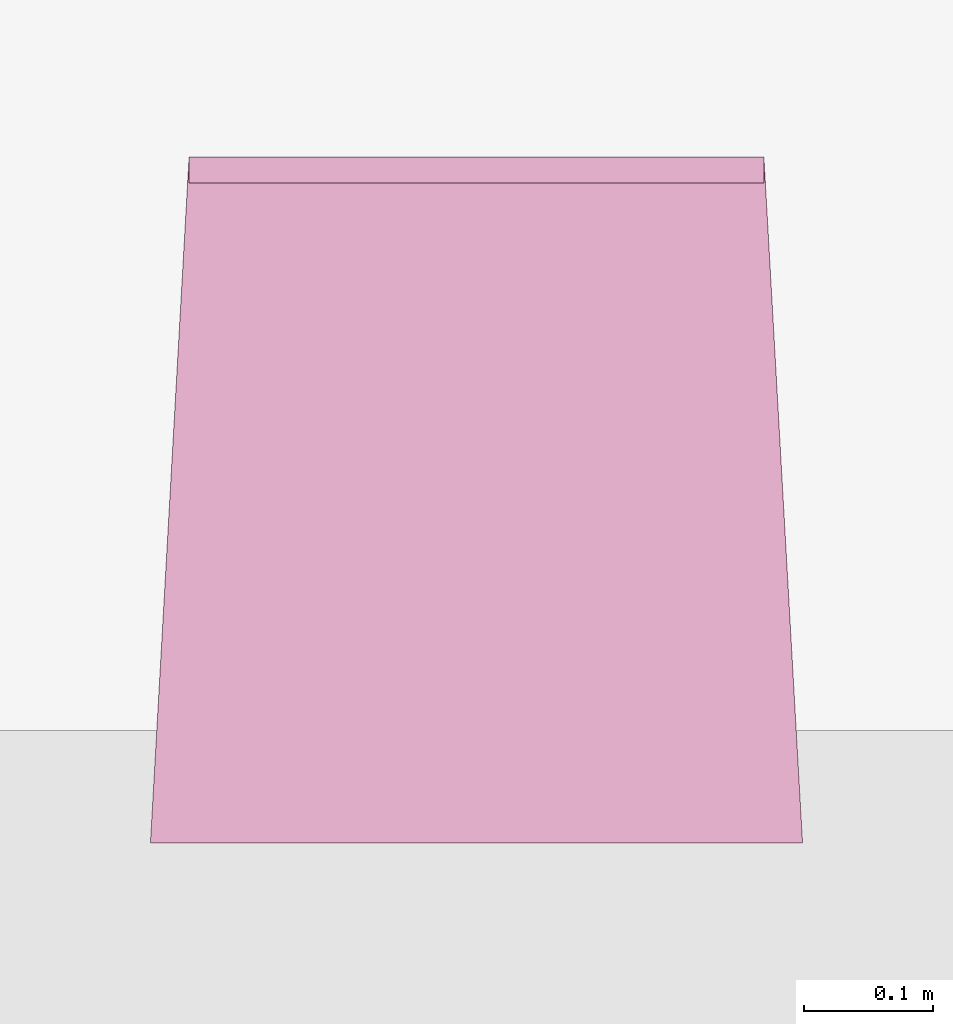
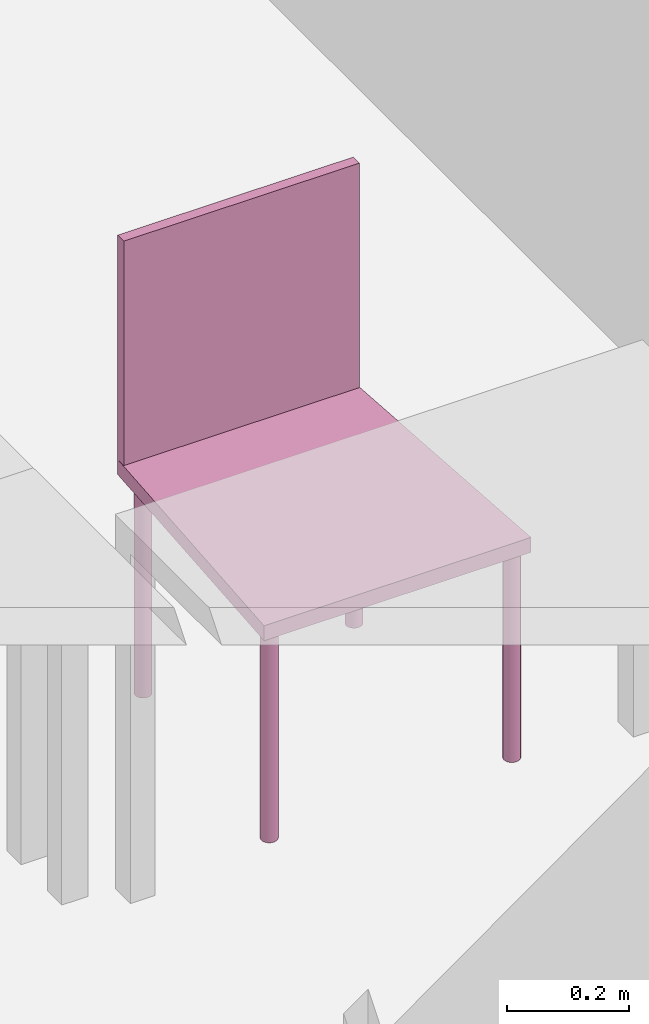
"""IFC4 building model written with IfcOpenShell, lengths in metres."""

from ifc_helpers import new_model, entity, si_unit, converted_unit, derived_unit, frame, origin, place, context, subcontext, project, spatial, faceted_brep, element, save


model = new_model("IFC4")

# Units and contexts
model_context = context("Model", 3, precision=1e-05, world=origin())
body_context = subcontext(model_context, "Body", "Model", "MODEL_VIEW")
ifc_project = project(units=[si_unit("LENGTHUNIT", "METRE"), si_unit("AREAUNIT", "SQUARE_METRE"), si_unit("VOLUMEUNIT", "CUBIC_METRE"), si_unit("MASSUNIT", "GRAM", prefix="KILO"), converted_unit("PLANEANGLEUNIT", "DEGREE", entity("IfcPlaneAngleMeasure", 0.0174532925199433), si_unit("PLANEANGLEUNIT", "RADIAN"), dimensions=[0, 0, 0, 0, 0, 0, 0]), derived_unit("THERMALTRANSMITTANCEUNIT", [(si_unit("POWERUNIT", "WATT"), 1), (si_unit("THERMODYNAMICTEMPERATUREUNIT", "KELVIN"), -1), (si_unit("LENGTHUNIT", "METRE"), -2)]), derived_unit("VOLUMETRICFLOWRATEUNIT", [(si_unit("LENGTHUNIT", "METRE"), 3), (converted_unit("TIMEUNIT", "hour", entity("IfcTimeMeasure", 3600.0), si_unit("TIMEUNIT", "SECOND"), dimensions=[0, 0, 1, 0, 0, 0, 0]), -1), (si_unit("LENGTHUNIT", "METRE"), -1)])], contexts=[model_context])

# Building, storeys
building_placement = place(None, origin())
building = spatial("IfcBuilding", under=ifc_project, at=building_placement, Name="HABITATGE PLURIFAMILIAR", CompositionType="ELEMENT")
storey_1_placement = place(building_placement, frame((0.0, 0.0, 3.35)))
storey_1 = spatial("IfcBuildingStorey", under=building, at=storey_1_placement, Name="PLANTA  ALTELL", CompositionType="ELEMENT", Elevation=3.35)
storey_2_placement = place(storey_1_placement, origin())
storey_2 = spatial("IfcBuildingStorey", under=storey_1, at=storey_2_placement, Name="NOU", CompositionType="PARTIAL")

# Furniture
furniture_placement = place(storey_2_placement, frame((415.152760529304, 13.9533806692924, 0.0499839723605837)))
element("IfcFurniture", 1, at=furniture_placement, inside=storey_2, Name="Cadira confident_PA", context=body_context, shape_type="Brep", body=[
    faceted_brep([(0.0391636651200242, 0.025032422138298, 0.0), (0.0389479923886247, 0.0276273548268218, 0.0), (0.0382849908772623, 0.0301454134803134, 0.0), (0.0371948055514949, 0.0325100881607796, 0.0), (0.0357105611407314, 0.0346495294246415, 0.0), (0.0338773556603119, 0.0364987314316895, 0.0), (0.0317508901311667, 0.0380015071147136, 0.0), (0.0293957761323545, 0.0391121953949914, 0.0), (0.0268835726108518, 0.0397970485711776, 0.0), (0.0242906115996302, 0.040035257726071, 0.0), (0.0216956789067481, 0.0398195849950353, 0.0), (0.0191776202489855, 0.0391565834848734, 0.0), (0.0168129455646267, 0.0380663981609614, 0.0), (0.0146735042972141, 0.0365821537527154, 0.0), (0.0128243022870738, 0.0347489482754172, 0.0), (0.0113215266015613, 0.0326224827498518, 0.0), (0.0102108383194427, 0.0302673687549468, 0.0), (0.00952598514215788, 0.0277551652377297, 0.0), (0.00928777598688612, 0.0251622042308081, 0.0), (0.00950344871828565, 0.022567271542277, 0.0), (0.010166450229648, 0.0200492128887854, 0.0), (0.0112566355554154, 0.0176845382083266, 0.0), (0.0127408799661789, 0.0155450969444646, 0.0), (0.0145740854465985, 0.0136958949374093, 0.0), (0.0167005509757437, 0.0121931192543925, 0.0), (0.0190556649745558, 0.0110824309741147, 0.0), (0.0215678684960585, 0.0103975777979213, 0.0), (0.0241608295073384, 0.0101593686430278, 0.0), (0.0267557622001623, 0.0103750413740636, 0.0), (0.0292738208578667, 0.0110380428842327, 0.0), (0.0316384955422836, 0.0121282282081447, 0.0), (0.0337779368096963, 0.0136124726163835, 0.0), (0.0356271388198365, 0.0154456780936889, 0.0), (0.037129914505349, 0.0175721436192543, 0.0), (0.0382406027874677, 0.019927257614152, 0.0), (0.0389254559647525, 0.0224394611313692, 0.0), (0.0391636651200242, 0.025032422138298, 0.448281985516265), (0.0389254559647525, 0.0224394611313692, 0.448281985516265), (0.0382406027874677, 0.019927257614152, 0.448281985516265), (0.037129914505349, 0.0175721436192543, 0.448281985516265), (0.0356271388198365, 0.0154456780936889, 0.448281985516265), (0.0337779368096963, 0.0136124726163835, 0.448281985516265), (0.0316384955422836, 0.0121282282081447, 0.448281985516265), (0.0292738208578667, 0.0110380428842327, 0.448281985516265), (0.0267557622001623, 0.0103750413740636, 0.448281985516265), (0.0241608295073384, 0.0101593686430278, 0.448281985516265), (0.0215678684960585, 0.0103975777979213, 0.448281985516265), (0.0190556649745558, 0.0110824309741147, 0.448281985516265), (0.0167005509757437, 0.0121931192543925, 0.448281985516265), (0.0145740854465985, 0.0136958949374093, 0.448281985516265), (0.0127408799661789, 0.0155450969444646, 0.448281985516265), (0.0112566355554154, 0.0176845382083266, 0.448281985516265), (0.010166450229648, 0.0200492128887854, 0.448281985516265), (0.00950344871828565, 0.022567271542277, 0.448281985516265), (0.00928777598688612, 0.0251622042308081, 0.448281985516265), (0.00952598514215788, 0.0277551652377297, 0.448281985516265), (0.0102108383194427, 0.0302673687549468, 0.448281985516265), (0.0113215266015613, 0.0326224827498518, 0.448281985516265), (0.0128243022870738, 0.0347489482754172, 0.448281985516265), (0.0146735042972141, 0.0365821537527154, 0.448281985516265), (0.0168129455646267, 0.0380663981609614, 0.448281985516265), (0.0191776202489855, 0.0391565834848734, 0.448281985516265), (0.0216956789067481, 0.0398195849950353, 0.448281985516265), (0.0242906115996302, 0.040035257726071, 0.448281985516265), (0.0268835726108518, 0.0397970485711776, 0.448281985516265), (0.0293957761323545, 0.0391121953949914, 0.448281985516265), (0.0317508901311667, 0.0380015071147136, 0.448281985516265), (0.0338773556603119, 0.0364987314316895, 0.448281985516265), (0.0357105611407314, 0.0346495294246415, 0.448281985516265), (0.0371948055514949, 0.0325100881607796, 0.448281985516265), (0.0382849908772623, 0.0301454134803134, 0.448281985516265), (0.0389479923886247, 0.0276273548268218, 0.448281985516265)], [[[0, 1, 2, 3, 4, 5, 6, 7, 8, 9, 10, 11, 12, 13, 14, 15, 16, 17, 18, 19, 20, 21, 22, 23, 24, 25, 26, 27, 28, 29, 30, 31, 32, 33, 34, 35]], [[36, 37, 38, 39, 40, 41, 42, 43, 44, 45, 46, 47, 48, 49, 50, 51, 52, 53, 54, 55, 56, 57, 58, 59, 60, 61, 62, 63, 64, 65, 66, 67, 68, 69, 70, 71]], [[1, 0, 36, 71]], [[2, 1, 71, 70]], [[3, 2, 70, 69]], [[4, 3, 69, 68]], [[5, 4, 68, 67]], [[6, 5, 67, 66]], [[7, 6, 66, 65]], [[8, 7, 65, 64]], [[9, 8, 64, 63]], [[10, 9, 63, 62]], [[11, 10, 62, 61]], [[12, 11, 61, 60]], [[13, 12, 60, 59]], [[14, 13, 59, 58]], [[15, 14, 58, 57]], [[16, 15, 57, 56]], [[17, 16, 56, 55]], [[18, 17, 55, 54]], [[19, 18, 54, 53]], [[20, 19, 53, 52]], [[21, 20, 52, 51]], [[22, 21, 51, 50]], [[23, 22, 50, 49]], [[24, 23, 49, 48]], [[25, 24, 48, 47]], [[26, 25, 47, 46]], [[27, 26, 46, 45]], [[28, 27, 45, 44]], [[29, 28, 44, 43]], [[30, 29, 43, 42]], [[31, 30, 42, 41]], [[32, 31, 41, 40]], [[33, 32, 40, 39]], [[34, 33, 39, 38]], [[35, 34, 38, 37]], [[0, 35, 37, 36]]], orient=[[False], [False], [False], [False], [False], [False], [False], [False], [False], [False], [False], [False], [False], [False], [False], [False], [False], [False], [False], [False], [False], [False], [False], [False], [False], [False], [False], [False], [False], [False], [False], [False], [False], [False], [False], [False], [False], [False]]),
    faceted_brep([(0.0668016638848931, 0.487439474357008, 0.0), (0.0665859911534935, 0.490034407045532, 0.0), (0.0659229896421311, 0.492552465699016, 0.0), (0.0648328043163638, 0.49491714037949, 0.0), (0.0633485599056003, 0.497056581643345, 0.0), (0.0615153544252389, 0.4989057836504, 0.0), (0.0593888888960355, 0.500408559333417, 0.0), (0.0570337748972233, 0.501519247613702, 0.0), (0.0545215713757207, 0.502204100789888, 0.0), (0.051928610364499, 0.502442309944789, 0.0), (0.0493336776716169, 0.502226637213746, 0.0), (0.0468156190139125, 0.501563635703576, 0.0), (0.0444509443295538, 0.500473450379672, 0.0), (0.0423115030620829, 0.498989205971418, 0.0), (0.0404623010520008, 0.497156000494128, 0.0), (0.0389595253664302, 0.495029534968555, 0.0), (0.0378488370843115, 0.492674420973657, 0.0), (0.0371639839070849, 0.490162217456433, 0.0), (0.0369257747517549, 0.487569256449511, 0.0), (0.0371414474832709, 0.48497432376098, 0.0), (0.0378044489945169, 0.482456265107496, 0.0), (0.0388946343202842, 0.48009159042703, 0.0), (0.0403788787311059, 0.477952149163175, 0.0), (0.0422120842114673, 0.476102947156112, 0.0), (0.0443385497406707, 0.474600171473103, 0.0), (0.0466936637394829, 0.473489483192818, 0.0), (0.0492058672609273, 0.472804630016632, 0.0), (0.0517988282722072, 0.472566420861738, 0.0), (0.0543937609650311, 0.472782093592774, 0.0), (0.0569118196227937, 0.473445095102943, 0.0), (0.0592764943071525, 0.474535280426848, 0.0), (0.0614159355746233, 0.476019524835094, 0.0), (0.0632651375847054, 0.477852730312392, 0.0), (0.0647679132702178, 0.479979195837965, 0.0), (0.0658786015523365, 0.482334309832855, 0.0), (0.0665634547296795, 0.484846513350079, 0.0), (0.0668016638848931, 0.487439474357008, 0.448281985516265), (0.0665634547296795, 0.484846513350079, 0.448281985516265), (0.0658786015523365, 0.482334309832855, 0.448281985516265), (0.0647679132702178, 0.479979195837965, 0.448281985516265), (0.0632651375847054, 0.477852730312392, 0.448281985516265), (0.0614159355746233, 0.476019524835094, 0.448281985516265), (0.0592764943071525, 0.474535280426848, 0.448281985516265), (0.0569118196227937, 0.473445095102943, 0.448281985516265), (0.0543937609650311, 0.472782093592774, 0.448281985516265), (0.0517988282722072, 0.472566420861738, 0.448281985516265), (0.0492058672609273, 0.472804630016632, 0.448281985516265), (0.0466936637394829, 0.473489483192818, 0.448281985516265), (0.0443385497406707, 0.474600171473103, 0.448281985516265), (0.0422120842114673, 0.476102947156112, 0.448281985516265), (0.0403788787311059, 0.477952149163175, 0.448281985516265), (0.0388946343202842, 0.48009159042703, 0.448281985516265), (0.0378044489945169, 0.482456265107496, 0.448281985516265), (0.0371414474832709, 0.48497432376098, 0.448281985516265), (0.0369257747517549, 0.487569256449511, 0.448281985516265), (0.0371639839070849, 0.490162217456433, 0.448281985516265), (0.0378488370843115, 0.492674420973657, 0.448281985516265), (0.0389595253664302, 0.495029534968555, 0.448281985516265), (0.0404623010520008, 0.497156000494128, 0.448281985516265), (0.0423115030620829, 0.498989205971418, 0.448281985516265), (0.0444509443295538, 0.500473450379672, 0.448281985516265), (0.0468156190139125, 0.501563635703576, 0.448281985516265), (0.0493336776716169, 0.502226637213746, 0.448281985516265), (0.051928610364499, 0.502442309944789, 0.448281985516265), (0.0545215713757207, 0.502204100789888, 0.448281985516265), (0.0570337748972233, 0.501519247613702, 0.448281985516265), (0.0593888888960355, 0.500408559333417, 0.448281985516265), (0.0615153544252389, 0.4989057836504, 0.448281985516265), (0.0633485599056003, 0.497056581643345, 0.448281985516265), (0.0648328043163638, 0.49491714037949, 0.448281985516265), (0.0659229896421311, 0.492552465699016, 0.448281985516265), (0.0665859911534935, 0.490034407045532, 0.448281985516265)], [[[0, 1, 2, 3, 4, 5, 6, 7, 8, 9, 10, 11, 12, 13, 14, 15, 16, 17, 18, 19, 20, 21, 22, 23, 24, 25, 26, 27, 28, 29, 30, 31, 32, 33, 34, 35]], [[36, 37, 38, 39, 40, 41, 42, 43, 44, 45, 46, 47, 48, 49, 50, 51, 52, 53, 54, 55, 56, 57, 58, 59, 60, 61, 62, 63, 64, 65, 66, 67, 68, 69, 70, 71]], [[1, 0, 36, 71]], [[2, 1, 71, 70]], [[3, 2, 70, 69]], [[4, 3, 69, 68]], [[5, 4, 68, 67]], [[6, 5, 67, 66]], [[7, 6, 66, 65]], [[8, 7, 65, 64]], [[9, 8, 64, 63]], [[10, 9, 63, 62]], [[11, 10, 62, 61]], [[12, 11, 61, 60]], [[13, 12, 60, 59]], [[14, 13, 59, 58]], [[15, 14, 58, 57]], [[16, 15, 57, 56]], [[17, 16, 56, 55]], [[18, 17, 55, 54]], [[19, 18, 54, 53]], [[20, 19, 53, 52]], [[21, 20, 52, 51]], [[22, 21, 51, 50]], [[23, 22, 50, 49]], [[24, 23, 49, 48]], [[25, 24, 48, 47]], [[26, 25, 47, 46]], [[27, 26, 46, 45]], [[28, 27, 45, 44]], [[29, 28, 44, 43]], [[30, 29, 43, 42]], [[31, 30, 42, 41]], [[32, 31, 41, 40]], [[33, 32, 40, 39]], [[34, 33, 39, 38]], [[35, 34, 38, 37]], [[0, 35, 37, 36]]], orient=[[False], [False], [False], [False], [False], [False], [False], [False], [False], [False], [False], [False], [False], [False], [False], [False], [False], [False], [False], [False], [False], [False], [False], [False], [False], [False], [False], [False], [False], [False], [False], [False], [False], [False], [False], [False], [False], [False]]),
    faceted_brep([(0.499163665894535, 0.025032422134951, 0.0), (0.498947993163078, 0.0276273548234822, 0.0), (0.498284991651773, 0.0301454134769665, 0.0), (0.497194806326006, 0.0325100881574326, 0.0), (0.495710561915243, 0.0346495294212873, 0.0), (0.493877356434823, 0.0364987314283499, 0.0), (0.491750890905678, 0.0380015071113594, 0.0), (0.489395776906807, 0.0391121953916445, 0.0), (0.486883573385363, 0.0397970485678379, 0.0), (0.484290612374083, 0.0400352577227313, 0.0), (0.481695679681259, 0.0398195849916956, 0.0), (0.479177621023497, 0.0391565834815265, 0.0), (0.476812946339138, 0.0380663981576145, 0.0), (0.474673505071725, 0.0365821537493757, 0.0), (0.472824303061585, 0.0347489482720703, 0.0), (0.471321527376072, 0.0326224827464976, 0.0), (0.470210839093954, 0.0302673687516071, 0.0), (0.469525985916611, 0.0277551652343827, 0.0), (0.469287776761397, 0.0251622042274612, 0.0), (0.469503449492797, 0.0225672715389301, 0.0), (0.470166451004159, 0.0200492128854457, 0.0), (0.471256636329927, 0.0176845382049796, 0.0), (0.47274088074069, 0.0155450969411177, 0.0), (0.47457408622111, 0.0136958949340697, 0.0), (0.476700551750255, 0.0121931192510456, 0.0), (0.479055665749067, 0.011082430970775, 0.0), (0.48156786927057, 0.0103975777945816, 0.0), (0.484160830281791, 0.0101593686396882, 0.0), (0.486755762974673, 0.0103750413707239, 0.0), (0.489273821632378, 0.011038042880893, 0.0), (0.491638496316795, 0.0121282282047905, 0.0), (0.493777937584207, 0.0136124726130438, 0.0), (0.495627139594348, 0.0154456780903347, 0.0), (0.49712991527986, 0.0175721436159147, 0.0), (0.498240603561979, 0.0199272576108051, 0.0), (0.498925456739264, 0.0224394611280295, 0.0), (0.499163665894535, 0.025032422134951, 0.448281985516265), (0.498925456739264, 0.0224394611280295, 0.448281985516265), (0.498240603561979, 0.0199272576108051, 0.448281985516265), (0.49712991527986, 0.0175721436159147, 0.448281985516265), (0.495627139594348, 0.0154456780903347, 0.448281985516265), (0.493777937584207, 0.0136124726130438, 0.448281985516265), (0.491638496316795, 0.0121282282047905, 0.448281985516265), (0.489273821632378, 0.011038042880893, 0.448281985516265), (0.486755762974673, 0.0103750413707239, 0.448281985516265), (0.484160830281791, 0.0101593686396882, 0.448281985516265), (0.48156786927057, 0.0103975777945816, 0.448281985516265), (0.479055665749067, 0.011082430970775, 0.448281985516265), (0.476700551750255, 0.0121931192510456, 0.448281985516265), (0.47457408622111, 0.0136958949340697, 0.448281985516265), (0.47274088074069, 0.0155450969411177, 0.448281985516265), (0.471256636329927, 0.0176845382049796, 0.448281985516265), (0.470166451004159, 0.0200492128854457, 0.448281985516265), (0.469503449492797, 0.0225672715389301, 0.448281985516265), (0.469287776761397, 0.0251622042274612, 0.448281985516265), (0.469525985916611, 0.0277551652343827, 0.448281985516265), (0.470210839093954, 0.0302673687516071, 0.448281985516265), (0.471321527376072, 0.0326224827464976, 0.448281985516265), (0.472824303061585, 0.0347489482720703, 0.448281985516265), (0.474673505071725, 0.0365821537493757, 0.448281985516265), (0.476812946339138, 0.0380663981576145, 0.448281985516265), (0.479177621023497, 0.0391565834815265, 0.448281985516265), (0.481695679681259, 0.0398195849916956, 0.448281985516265), (0.484290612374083, 0.0400352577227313, 0.448281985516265), (0.486883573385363, 0.0397970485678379, 0.448281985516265), (0.489395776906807, 0.0391121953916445, 0.448281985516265), (0.491750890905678, 0.0380015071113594, 0.448281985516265), (0.493877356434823, 0.0364987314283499, 0.448281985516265), (0.495710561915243, 0.0346495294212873, 0.448281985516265), (0.497194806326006, 0.0325100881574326, 0.448281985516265), (0.498284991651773, 0.0301454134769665, 0.448281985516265), (0.498947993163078, 0.0276273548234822, 0.448281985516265)], [[[0, 1, 2, 3, 4, 5, 6, 7, 8, 9, 10, 11, 12, 13, 14, 15, 16, 17, 18, 19, 20, 21, 22, 23, 24, 25, 26, 27, 28, 29, 30, 31, 32, 33, 34, 35]], [[36, 37, 38, 39, 40, 41, 42, 43, 44, 45, 46, 47, 48, 49, 50, 51, 52, 53, 54, 55, 56, 57, 58, 59, 60, 61, 62, 63, 64, 65, 66, 67, 68, 69, 70, 71]], [[1, 0, 36, 71]], [[2, 1, 71, 70]], [[3, 2, 70, 69]], [[4, 3, 69, 68]], [[5, 4, 68, 67]], [[6, 5, 67, 66]], [[7, 6, 66, 65]], [[8, 7, 65, 64]], [[9, 8, 64, 63]], [[10, 9, 63, 62]], [[11, 10, 62, 61]], [[12, 11, 61, 60]], [[13, 12, 60, 59]], [[14, 13, 59, 58]], [[15, 14, 58, 57]], [[16, 15, 57, 56]], [[17, 16, 56, 55]], [[18, 17, 55, 54]], [[19, 18, 54, 53]], [[20, 19, 53, 52]], [[21, 20, 52, 51]], [[22, 21, 51, 50]], [[23, 22, 50, 49]], [[24, 23, 49, 48]], [[25, 24, 48, 47]], [[26, 25, 47, 46]], [[27, 26, 46, 45]], [[28, 27, 45, 44]], [[29, 28, 44, 43]], [[30, 29, 43, 42]], [[31, 30, 42, 41]], [[32, 31, 41, 40]], [[33, 32, 40, 39]], [[34, 33, 39, 38]], [[35, 34, 38, 37]], [[0, 35, 37, 36]]], orient=[[False], [False], [False], [False], [False], [False], [False], [False], [False], [False], [False], [False], [False], [False], [False], [False], [False], [False], [False], [False], [False], [False], [False], [False], [False], [False], [False], [False], [False], [False], [False], [False], [False], [False], [False], [False], [False], [False]]),
    faceted_brep([(0.466801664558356, 0.487439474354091, 0.0), (0.466585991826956, 0.490034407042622, 0.0), (0.465922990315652, 0.492552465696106, 0.0), (0.464832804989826, 0.494917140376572, 0.0), (0.463348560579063, 0.497056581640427, 0.0), (0.461515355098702, 0.498905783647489, 0.0), (0.459388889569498, 0.500408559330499, 0.0), (0.457033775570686, 0.501519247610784, 0.0), (0.454521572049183, 0.502204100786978, 0.0), (0.451928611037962, 0.502442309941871, 0.0), (0.449333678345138, 0.502226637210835, 0.0), (0.446815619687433, 0.501563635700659, 0.0), (0.444450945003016, 0.500473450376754, 0.0), (0.442311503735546, 0.498989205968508, 0.0), (0.440462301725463, 0.49715600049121, 0.0), (0.438959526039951, 0.495029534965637, 0.0), (0.437848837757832, 0.492674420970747, 0.0), (0.437163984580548, 0.490162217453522, 0.0), (0.436925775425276, 0.487569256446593, 0.0), (0.437141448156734, 0.48497432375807, 0.0), (0.437804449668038, 0.482456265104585, 0.0), (0.438894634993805, 0.480091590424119, 0.0), (0.440378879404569, 0.477952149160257, 0.0), (0.44221208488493, 0.476102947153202, 0.0), (0.444338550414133, 0.474600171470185, 0.0), (0.446693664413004, 0.473489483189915, 0.0), (0.449205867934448, 0.472804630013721, 0.0), (0.45179882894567, 0.472566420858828, 0.0), (0.454393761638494, 0.472782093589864, 0.0), (0.456911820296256, 0.473445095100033, 0.0), (0.459276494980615, 0.47453528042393, 0.0), (0.461415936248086, 0.476019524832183, 0.0), (0.463265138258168, 0.477852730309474, 0.0), (0.46476791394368, 0.479979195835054, 0.0), (0.465878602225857, 0.482334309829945, 0.0), (0.466563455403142, 0.484846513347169, 0.0), (0.466801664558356, 0.487439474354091, 0.448281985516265), (0.466563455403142, 0.484846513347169, 0.448281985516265), (0.465878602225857, 0.482334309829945, 0.448281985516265), (0.46476791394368, 0.479979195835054, 0.448281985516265), (0.463265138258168, 0.477852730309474, 0.448281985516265), (0.461415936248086, 0.476019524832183, 0.448281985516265), (0.459276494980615, 0.47453528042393, 0.448281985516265), (0.456911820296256, 0.473445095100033, 0.448281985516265), (0.454393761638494, 0.472782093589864, 0.448281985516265), (0.45179882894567, 0.472566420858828, 0.448281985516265), (0.449205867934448, 0.472804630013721, 0.448281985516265), (0.446693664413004, 0.473489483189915, 0.448281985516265), (0.444338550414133, 0.474600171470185, 0.448281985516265), (0.44221208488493, 0.476102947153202, 0.448281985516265), (0.440378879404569, 0.477952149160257, 0.448281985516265), (0.438894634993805, 0.480091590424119, 0.448281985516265), (0.437804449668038, 0.482456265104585, 0.448281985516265), (0.437141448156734, 0.48497432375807, 0.448281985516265), (0.436925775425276, 0.487569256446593, 0.448281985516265), (0.437163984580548, 0.490162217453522, 0.448281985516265), (0.437848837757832, 0.492674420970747, 0.448281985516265), (0.438959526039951, 0.495029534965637, 0.448281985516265), (0.440462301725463, 0.49715600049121, 0.448281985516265), (0.442311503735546, 0.498989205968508, 0.448281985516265), (0.444450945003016, 0.500473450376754, 0.448281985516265), (0.446815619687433, 0.501563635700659, 0.448281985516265), (0.449333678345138, 0.502226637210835, 0.448281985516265), (0.451928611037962, 0.502442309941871, 0.448281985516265), (0.454521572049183, 0.502204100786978, 0.448281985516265), (0.457033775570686, 0.501519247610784, 0.448281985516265), (0.459388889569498, 0.500408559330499, 0.448281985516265), (0.461515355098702, 0.498905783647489, 0.448281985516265), (0.463348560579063, 0.497056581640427, 0.448281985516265), (0.464832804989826, 0.494917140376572, 0.448281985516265), (0.465922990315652, 0.492552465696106, 0.448281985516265), (0.466585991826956, 0.490034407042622, 0.448281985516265)], [[[0, 1, 2, 3, 4, 5, 6, 7, 8, 9, 10, 11, 12, 13, 14, 15, 16, 17, 18, 19, 20, 21, 22, 23, 24, 25, 26, 27, 28, 29, 30, 31, 32, 33, 34, 35]], [[36, 37, 38, 39, 40, 41, 42, 43, 44, 45, 46, 47, 48, 49, 50, 51, 52, 53, 54, 55, 56, 57, 58, 59, 60, 61, 62, 63, 64, 65, 66, 67, 68, 69, 70, 71]], [[1, 0, 36, 71]], [[2, 1, 71, 70]], [[3, 2, 70, 69]], [[4, 3, 69, 68]], [[5, 4, 68, 67]], [[6, 5, 67, 66]], [[7, 6, 66, 65]], [[8, 7, 65, 64]], [[9, 8, 64, 63]], [[10, 9, 63, 62]], [[11, 10, 62, 61]], [[12, 11, 61, 60]], [[13, 12, 60, 59]], [[14, 13, 59, 58]], [[15, 14, 58, 57]], [[16, 15, 57, 56]], [[17, 16, 56, 55]], [[18, 17, 55, 54]], [[19, 18, 54, 53]], [[20, 19, 53, 52]], [[21, 20, 52, 51]], [[22, 21, 51, 50]], [[23, 22, 50, 49]], [[24, 23, 49, 48]], [[25, 24, 48, 47]], [[26, 25, 47, 46]], [[27, 26, 46, 45]], [[28, 27, 45, 44]], [[29, 28, 44, 43]], [[30, 29, 43, 42]], [[31, 30, 42, 41]], [[32, 31, 41, 40]], [[33, 32, 40, 39]], [[34, 33, 39, 38]], [[35, 34, 38, 37]], [[0, 35, 37, 36]]], orient=[[False], [False], [False], [False], [False], [False], [False], [False], [False], [False], [False], [False], [False], [False], [False], [False], [False], [False], [False], [False], [False], [False], [False], [False], [False], [False], [False], [False], [False], [False], [False], [False], [False], [False], [False], [False], [False], [False]]),
    faceted_brep([(0.476514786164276, 0.532607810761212, 0.418281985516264), (0.0300000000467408, 0.532607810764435, 0.418281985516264), (0.0, 0.0, 0.418281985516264), (0.506514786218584, 0.0, 0.418281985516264), (0.506514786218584, 0.0, 0.448281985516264), (0.0, 0.0, 0.448281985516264), (0.0300000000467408, 0.532607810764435, 0.448281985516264), (0.476514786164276, 0.532607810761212, 0.448281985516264)], [[[0, 1, 2, 3]], [[4, 5, 6, 7]], [[3, 4, 7, 0]], [[2, 5, 4, 3]], [[1, 6, 5, 2]], [[0, 7, 6, 1]]], orient=[[False], [False], [False], [False], [False], [False]]),
    faceted_brep([(0.476514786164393, 0.512607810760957, 0.448281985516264), (0.476514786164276, 0.532607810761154, 0.448281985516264), (0.0300000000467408, 0.532607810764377, 0.448281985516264), (0.0300000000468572, 0.512607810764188, 0.448281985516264), (0.0300000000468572, 0.512607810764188, 0.898281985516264), (0.0300000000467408, 0.532607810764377, 0.898281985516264), (0.476514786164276, 0.532607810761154, 0.898281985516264), (0.476514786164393, 0.512607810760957, 0.898281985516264)], [[[0, 1, 2, 3]], [[4, 5, 6, 7]], [[3, 4, 7, 0]], [[2, 5, 4, 3]], [[1, 6, 5, 2]], [[0, 7, 6, 1]]], orient=[[False], [False], [False], [False], [False], [False]]),
])

save(model, "model.ifc")
